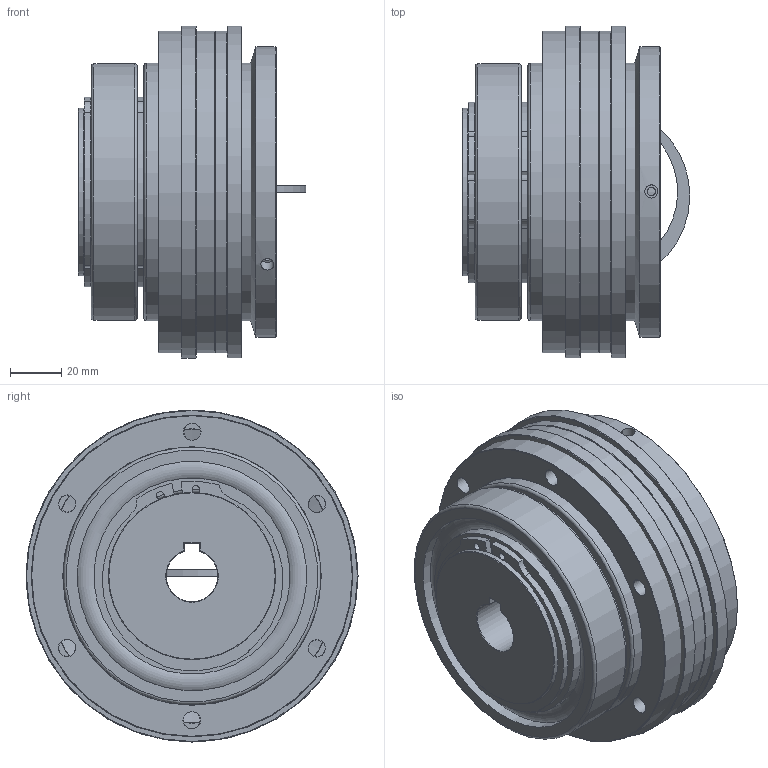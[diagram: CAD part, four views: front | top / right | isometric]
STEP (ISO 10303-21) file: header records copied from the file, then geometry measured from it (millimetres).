
FILE_DESCRIPTION( ( 'Unknown' ), '1' );
FILE_NAME( 'C:/Dokumente und Einstellungen/Sven/Desktop/hp kbk/KBK LL-P-500.stp', 'Unknown', ( 'Unknown' ), ( 'Unknown' ), 'XStep 1.0', 'Unknown', ' ' );
FILE_SCHEMA( ( 'automotive_design' ) );
Length unit declared in the file: millimetre
Products named in the file (10): Assem1; Assem2; ball_bearing_-_6013_0_01; ball_bearing_-_6013_0_02; ball_bearing_-_6013_0_03; Stellring 500; Druckring 500; a_65; KBK LL-P-500 Grundkörper; Flansch 500
Bounding box: 88.39 x 129 x 129 mm (x, y, z)
Volume: 1270831.8 mm3; surface area: 355625 mm2
Topology: 23 solids, 23 shells, 294 faces, 600 edges, 380 vertices
Faces by surface type: cylinder 122, plane 100, cone 40, torus 32
Full cylindrical faces by diameter (mm): 3 x6, 3.242 x6, 5.1 x6, 5.2 x6, 6.647 x12, 62 x4, 65 x10, 76.3 x8, 86 x4, 89.1 x8, 91 x2, 100 x6, 104.5 x2, 113 x2, 114 x2, 125 x4, 129 x2
Entity records: 3277 total; most frequent: CARTESIAN_POINT 772, DIRECTION 546, ORIENTED_EDGE 326, AXIS2_PLACEMENT_3D 255, EDGE_LOOP 226, FACE_OUTER_BOUND 167, EDGE_CURVE 163, VERTEX_POINT 139
